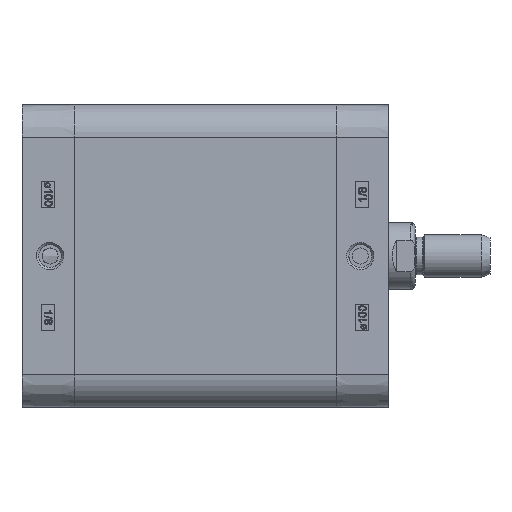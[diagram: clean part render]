
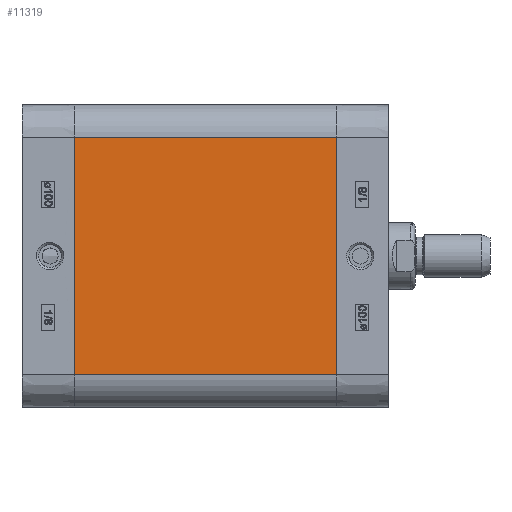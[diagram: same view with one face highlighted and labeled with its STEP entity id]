
A CAD part, left-side view. The second image highlights one B-rep face of the part: STEP entity #11319.
In plain terms, the highlighted planar face has unit normal (-1, 0, 0).
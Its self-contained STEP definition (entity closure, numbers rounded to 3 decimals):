
#5684=CARTESIAN_POINT('',(-56.65,-98.0,44.4));
#5685=VERTEX_POINT('',#5684);
#5692=CARTESIAN_POINT('',(-56.65,-98.0,-44.4));
#5693=VERTEX_POINT('',#5692);
#5694=CARTESIAN_POINT('',(-56.65,-98.0,-44.4));
#5695=DIRECTION('',(0.0,0.0,1.0));
#5696=VECTOR('',#5695,88.8);
#5697=LINE('',#5694,#5696);
#5698=EDGE_CURVE('',#5693,#5685,#5697,.T.);
#11277=CARTESIAN_POINT('',(-56.65,0.0,-44.4));
#11278=VERTEX_POINT('',#11277);
#11279=CARTESIAN_POINT('',(-56.65,0.0,-44.4));
#11280=DIRECTION('',(0.0,-1.0,0.0));
#11281=VECTOR('',#11280,98.0);
#11282=LINE('',#11279,#11281);
#11283=EDGE_CURVE('',#11278,#5693,#11282,.T.);
#11296=CARTESIAN_POINT('',(-56.65,0.0,-44.4));
#11297=DIRECTION('',(-1.0,0.0,0.0));
#11298=DIRECTION('',(0.0,0.0,1.0));
#11299=AXIS2_PLACEMENT_3D('',#11296,#11297,#11298);
#11300=PLANE('',#11299);
#11301=ORIENTED_EDGE('',*,*,#5698,.T.);
#11302=CARTESIAN_POINT('',(-56.65,0.0,44.4));
#11303=VERTEX_POINT('',#11302);
#11304=CARTESIAN_POINT('',(-56.65,0.0,44.4));
#11305=DIRECTION('',(0.0,-1.0,0.0));
#11306=VECTOR('',#11305,98.0);
#11307=LINE('',#11304,#11306);
#11308=EDGE_CURVE('',#11303,#5685,#11307,.T.);
#11309=ORIENTED_EDGE('',*,*,#11308,.F.);
#11310=CARTESIAN_POINT('',(-56.65,0.0,-44.4));
#11311=DIRECTION('',(0.0,0.0,1.0));
#11312=VECTOR('',#11311,88.8);
#11313=LINE('',#11310,#11312);
#11314=EDGE_CURVE('',#11278,#11303,#11313,.T.);
#11315=ORIENTED_EDGE('',*,*,#11314,.F.);
#11316=ORIENTED_EDGE('',*,*,#11283,.T.);
#11317=EDGE_LOOP('',(#11301,#11309,#11315,#11316));
#11318=FACE_OUTER_BOUND('',#11317,.T.);
#11319=ADVANCED_FACE('',(#11318),#11300,.T.);
